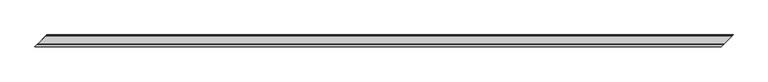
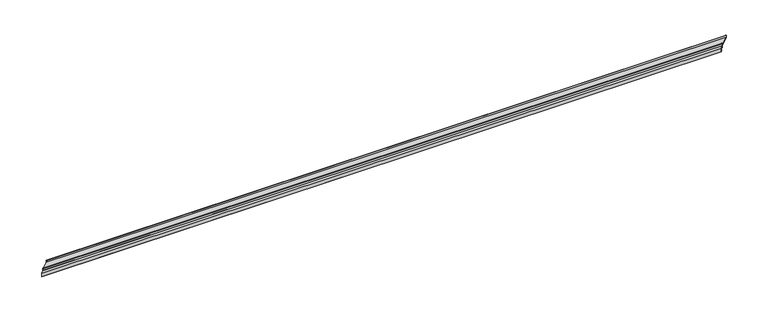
"""IFC4 building model written with IfcOpenShell, lengths in millimetres: proxy geometry, АК1_1 Примыкание к фундаментной балке : АК1_1 Примыкание к фундаментной балке."""

from ifc_helpers import new_model, si_unit, origin, place, context, project, spatial, faceted_brep, source, transform, mapped, element, save


def generic_models_68cd8cda(model_context):
    return source(origin(), model_context, "Body", "Brep", [
        faceted_brep([(116.5, 116.5, 9.0), (120.7449534, 120.7449534, 17.660254), (9120.8027882, 120.7449534, 17.660254), (9116.5578348, 116.5, 9.0), (1.5, 1.5, 9.0), (9001.5578348, 1.5, 9.0), (0.0, 0.0, 6.4019238), (9000.0578348, 0.0, 6.4019238), (8986.5578348, -13.5, -16.9807621), (-13.5, -13.5, -16.9807621), (-14.3660254, -14.3660254, -16.4807621), (8985.6918094, -14.3660254, -16.4807621), (0.9226497, 0.9226497, 10.0), (0.0, 0.0, 8.4019238), (9000.0578348, 0.0, 8.4019238), (9000.9804846, 0.9226497, 10.0), (115.9226497, 115.9226497, 10.0), (9115.9804846, 115.9226497, 10.0), (119.8842356, 119.8842356, 18.0821477), (9119.9420705, 119.8842356, 18.0821477)], [[[0, 1, 2, 3]], [[4, 0, 3, 5]], [[6, 4, 5, 7, 8, 9]], [[10, 9, 8, 11]], [[12, 13, 10, 11, 14, 15]], [[16, 12, 15, 17]], [[18, 16, 17, 19]], [[1, 18, 19, 2]], [[6, 13, 12, 16, 18, 1, 0, 4]], [[13, 6, 9, 10]], [[14, 7, 5, 3, 2, 19, 17, 15]], [[7, 14, 11, 8]]]),
        faceted_brep([(-4.5, -4.5, 33.6294353), (-4.5, -4.5, 3.6294353), (8995.5578348, -4.5, 3.6294353), (8995.5578348, -4.5, 33.6294353), (-3.5, -3.5, 33.6294353), (8996.5578348, -3.5, 33.6294353), (-3.5, -3.5, 2.7903356), (8996.5578348, -3.5, 2.7903356), (-33.0442326, -33.0442326, -2.4191097), (8967.0136022, -33.0442326, -2.4191097), (-33.0442326, -33.0442326, -49.1657965), (8967.0136022, -33.0442326, -49.1657965), (-20.6092037, -20.6092037, -36.7307676), (8979.4486311, -20.6092037, -36.7307676), (-19.902097, -19.902097, -37.4378744), (8980.1557379, -19.902097, -37.4378744), (-34.0442326, -34.0442326, -51.58001), (8966.0136022, -34.0442326, -51.58001), (-34.0442326, -34.0442326, -1.58001), (8966.0136022, -34.0442326, -1.58001)], [[[0, 1, 2, 3]], [[4, 0, 3, 5]], [[6, 4, 5, 7]], [[8, 6, 7, 9]], [[10, 8, 9, 11]], [[12, 10, 11, 13]], [[14, 12, 13, 15]], [[16, 14, 15, 17]], [[18, 16, 17, 19]], [[1, 18, 19, 2]], [[1, 0, 4, 6, 8, 10, 12, 14, 16, 18]], [[3, 2, 19, 17, 15, 13, 11, 9, 7, 5]]]),
        faceted_brep([(-3.5, -3.5, 35.0), (-3.5, -3.5, 10.0), (8996.5578348, -3.5, 10.0), (8996.5578348, -3.5, 35.0), (-1.5, -1.5, 35.0), (8998.5578348, -1.5, 35.0), (-1.5, -1.5, 12.0), (8998.5578348, -1.5, 12.0), (112.5, 112.5, 12.0), (0.0, 0.0, 12.0), (9000.0578348, 0.0, 12.0), (9112.5578348, 112.5, 12.0), (112.5, 112.5, 35.0), (9112.5578348, 112.5, 35.0), (114.5, 114.5, 35.0), (9114.5578348, 114.5, 35.0), (114.5, 114.5, 10.0), (9114.5578348, 114.5, 10.0), (0.0, 0.0, 10.0), (9000.0578348, 0.0, 10.0)], [[[0, 1, 2, 3]], [[4, 0, 3, 5]], [[6, 4, 5, 7]], [[8, 9, 6, 7, 10, 11]], [[12, 8, 11, 13]], [[14, 12, 13, 15]], [[16, 14, 15, 17]], [[18, 16, 17, 19, 2, 1]], [[9, 18, 1, 0, 4, 6]], [[19, 10, 7, 5, 3, 2]], [[18, 9, 8, 12, 14, 16]], [[10, 19, 17, 15, 13, 11]]]),
    ])


if __name__ == "__main__":
    model = new_model("IFC4")
    model_context = context("Model", 3, world=origin())
    ifc_project = project(units=[si_unit("LENGTHUNIT", "METRE", prefix="MILLI")], contexts=[model_context])
    site = spatial("IfcSite", under=ifc_project)
    building = spatial("IfcBuilding", under=site)
    placement = place(None, origin())
    generic_models_shape = generic_models_68cd8cda(model_context)
    element("IfcBuildingElementProxy", 1, Name="АК1_1 Примыкание к фундаментной балке : АК1_1 Примыкание к фундаментной балке", ObjectType="АК1_1 Примыкание к фундаментной балке : АК1_1 Примыкание к фундаментной балке", at=placement, inside=building, context=model_context, shape_type="MappedRepresentation", body=[
        mapped(generic_models_shape, transform((0.0, 0.0, 0.0), x_axis=(1.0, 0.0, 0.0), y_axis=(0.0, 1.0, 0.0), z_axis=(0.0, 0.0, 1.0))),
    ])
    save(model, "model.ifc")
